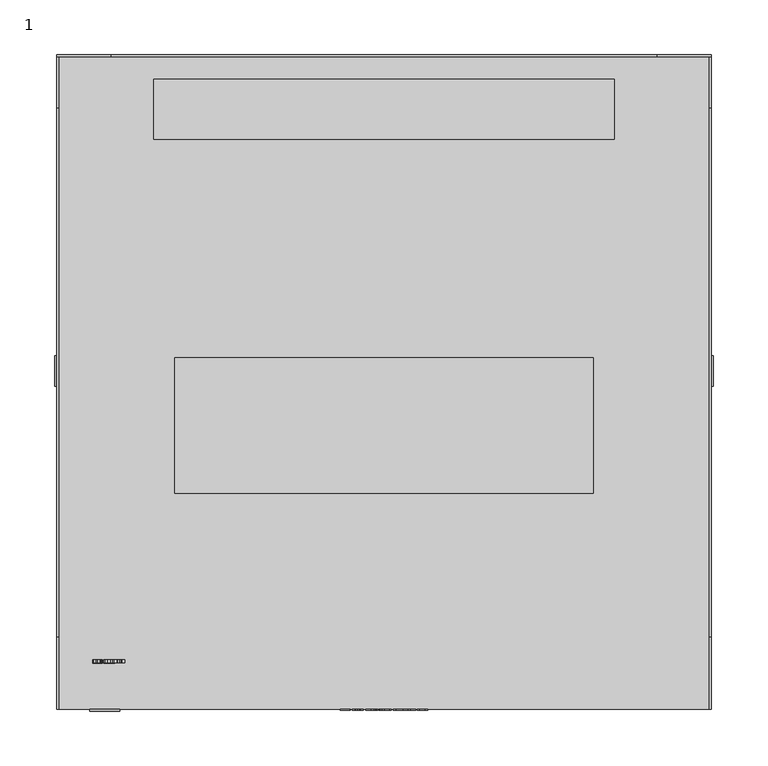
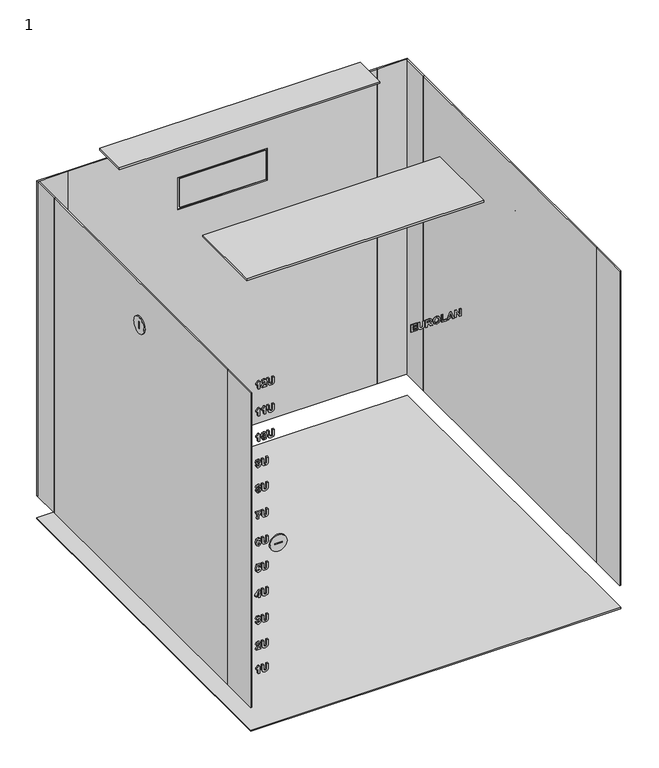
"""IFC4 building model written with IfcOpenShell, lengths in millimetres: proxy geometry, 1 : 12U 600мм металлическая дверь."""

from ifc_helpers import new_model, si_unit, point, frame, frame_2d, origin, origin_with_axes, place, context, project, spatial, polyline, circle_curve, trimmed, segment, composite_curve, outline, extrude, source, transform, mapped, element, save


def proxy_1_24a5b86d(model_context):
    return source(origin(), model_context, "Body", "SweptSolid", [
        extrude(outline(polyline([(593.0, -40.3245382), (593.0, -30.9964522), (595.1376864, -30.9964522), (595.1376864, -37.9925167), (598.2470483, -37.9925167), (598.2470483, -31.5794576), (600.3847347, -31.5794576), (600.3847347, -37.9925167), (603.1054264, -37.9925167), (603.1054264, -31.1907874), (605.2431128, -31.1907874), (605.2431128, -40.3245382), (593.0, -40.3245382)])), frame((0.0, -301.0, 0.0), z_axis=(0.0, 1.0, 0.0), x_axis=(0.0, 0.0, 1.0)), (0.0, 0.0, 1.0), 1.0),
        extrude(outline(polyline([(605.2431128, -29.053101), (598.7207402, -29.053101), (595.6174512, -28.8071456), (594.2601418, -28.1026808), (593.2095176, -26.6482039), (592.8056649, -23.9487675), (593.1761162, -21.5575346), (594.173602, -20.0954664), (595.7085458, -19.3454543), (598.8209443, -19.1420097), (605.2431128, -19.1420097), (605.2431128, -21.4740312), (598.4960402, -21.4740312), (596.4236383, -21.5924541), (595.3714958, -22.2923642), (594.9433512, -24.0216432), (595.3973059, -25.7979877), (596.5982363, -26.6208755), (598.6387551, -26.7210795), (605.2431128, -26.7210795), (605.2431128, -29.053101)])), frame((0.0, -301.0, 0.0), z_axis=(0.0, 1.0, 0.0), x_axis=(0.0, 0.0, 1.0)), (0.0, 0.0, 1.0), 1.0),
        extrude(outline(polyline([(593.0, -16.8099882), (593.0, -14.4779667), (598.0527132, -13.9435451), (597.9251808, -12.6120459), (597.4560437, -11.8164865), (595.7966039, -10.4242575), (593.0, -8.6509495), (593.0, -5.9272213), (595.3745323, -7.424209), (597.3512849, -8.7238252), (598.3715443, -9.9475291), (599.5071902, -7.6625732), (601.7936644, -6.8988969), (603.7339791, -7.4272455), (604.9121358, -8.8361752), (605.2431128, -11.6601074), (605.2431128, -16.8099882), (593.0, -16.8099882)]), holes=[polyline([(600.1903996, -14.4779667), (603.1054264, -14.4779667), (603.1054264, -12.4495939), (603.0659521, -10.5548264), (602.6150339, -9.5770778), (601.6782779, -9.2309184), (600.817434, -9.4935744), (600.3315962, -10.2223312), (600.1903996, -12.5558709), (600.1903996, -14.4779667)])]), frame((0.0, -301.0, 0.0), z_axis=(0.0, 1.0, 0.0), x_axis=(0.0, 0.0, 1.0)), (0.0, 0.0, 1.0), 1.0),
        extrude(outline(polyline([(599.0456442, -4.9555457), (594.4681411, -3.3735363), (592.8056649, 0.8896905), (594.4757323, 5.1225524), (599.106374, 6.7045618), (603.7628257, 5.1104065), (605.4374479, 0.8593256), (604.9546466, -1.7338337), (603.8539203, -3.2869964), (602.1792981, -4.4059416), (599.0456442, -4.9555457)]), holes=[polyline([(599.1306659, -2.6235242), (602.2612832, -1.6579215), (603.2997616, 0.886654), (602.2734292, 3.4190836), (599.1640672, 4.3725403), (595.9985302, 3.3932735), (594.9433512, 0.886654), (596.0061214, -1.6321114), (599.1306659, -2.6235242)])]), frame((0.0, -301.0, 0.0), z_axis=(0.0, 1.0, 0.0), x_axis=(0.0, 0.0, 1.0)), (0.0, 0.0, 1.0), 1.0),
        extrude(outline(polyline([(593.0, 8.647913), (593.0, 17.1986585), (595.1376864, 17.1986585), (595.1376864, 10.9799345), (605.2431128, 10.9799345), (605.2431128, 8.647913), (593.0, 8.647913)])), frame((0.0, -301.0, 0.0), z_axis=(0.0, 1.0, 0.0), x_axis=(0.0, 0.0, 1.0)), (0.0, 0.0, 1.0), 1.0),
        extrude(outline(polyline([(593.0, 29.2474361), (605.2431128, 24.7352175), (605.2431128, 22.2513717), (593.0, 17.7816638), (593.0, 20.2655096), (595.7206917, 21.2128934), (595.7206917, 25.837462), (593.0, 26.7969917), (593.0, 29.2474361)]), holes=[polyline([(597.8583781, 25.0904864), (597.8583781, 21.959869), (602.3280859, 23.51455), (597.8583781, 25.0904864)])]), frame((0.0, -301.0, 0.0), z_axis=(0.0, 1.0, 0.0), x_axis=(0.0, 0.0, 1.0)), (0.0, 0.0, 1.0), 1.0),
        extrude(outline(polyline([(593.0, 30.4134469), (593.0, 32.7454684), (601.1195644, 32.7454684), (593.0, 37.8042546), (593.0, 40.3245382), (605.2431128, 40.3245382), (605.2431128, 37.9925167), (597.002089, 37.9925167), (605.2431128, 32.8578184), (605.2431128, 30.4134469), (593.0, 30.4134469)])), frame((0.0, -301.0, 0.0), z_axis=(0.0, 1.0, 0.0), x_axis=(0.0, 0.0, 1.0)), (0.0, 0.0, 1.0), 1.0),
        extrude(outline(composite_curve([segment(trimmed(circle_curve(frame_2d((9.997621, 508.4611412)), 14.0), [point((-4.002379, 508.4611412))], [point((23.997621, 508.4611412))], False, "CARTESIAN"), True, "CONTINUOUS"), segment(trimmed(circle_curve(frame_2d((9.997621, 508.4611412)), 14.0), [point((23.997621, 508.4611412))], [point((-4.002379, 508.4611412))], False, "CARTESIAN"), True, "CONTINUOUS")], self_intersect=False), holes=[polyline([(11.0, 514.5), (9.0, 514.5), (9.0, 502.5), (11.0, 502.5), (11.0, 514.5)])]), frame((-302.0, 0.0, 0.0), z_axis=(1.0, 0.0, 0.0), x_axis=(0.0, 1.0, 0.0)), (0.0, 0.0, 1.0), 2.0),
        extrude(outline(composite_curve([segment(trimmed(circle_curve(frame_2d((9.997621, 508.4611412)), 14.0), [point((-4.002379, 508.4611412))], [point((23.997621, 508.4611412))], False, "CARTESIAN"), True, "CONTINUOUS"), segment(trimmed(circle_curve(frame_2d((9.997621, 508.4611412)), 14.0), [point((23.997621, 508.4611412))], [point((-4.002379, 508.4611412))], False, "CARTESIAN"), True, "CONTINUOUS")], self_intersect=False), holes=[polyline([(11.0, 514.5), (9.0, 514.5), (9.0, 502.5), (11.0, 502.5), (11.0, 514.5)])]), frame((300.0, 0.0, 0.0), z_axis=(1.0, 0.0, 0.0), x_axis=(0.0, 1.0, 0.0)), (0.0, 0.0, 1.0), 2.0),
        extrude(outline(composite_curve([segment(trimmed(circle_curve(frame_2d((308.5, -256.0)), 13.7647373), [point((308.5, -242.2352627))], [point((308.5, -269.7647373))], False, "CARTESIAN"), True, "CONTINUOUS"), segment(trimmed(circle_curve(frame_2d((308.5, -256.0)), 13.7647373), [point((308.5, -269.7647373))], [point((308.5, -242.2352627))], False, "CARTESIAN"), True, "CONTINUOUS")], self_intersect=False), holes=[polyline([(309.5, -250.0), (307.5, -250.0), (307.5, -262.0), (309.5, -262.0), (309.5, -250.0)])]), frame((0.0, -302.0, 0.0), z_axis=(0.0, 1.0, 0.0), x_axis=(0.0, 0.0, 1.0)), (0.0, 0.0, 1.0), 2.0),
        extrude(outline(polyline([(300.0, 300.0), (300.0, -300.0), (-300.0, -300.0), (-300.0, 300.0), (300.0, 300.0)])), origin_with_axes(), (0.0, 0.0, 1.0), 2.0),
        extrude(outline(polyline([(211.0, 277.5), (211.0, 222.5), (-211.0, 222.5), (-211.0, 277.5), (211.0, 277.5)])), frame((0.0, 0.0, 613.9795778), z_axis=(0.0, 0.0, 1.0), x_axis=(1.0, 0.0, 0.0)), (0.0, 0.0, 1.0), 3.0204222),
        extrude(outline(polyline([(192.0, 22.0), (192.0, -102.0), (-192.0, -102.0), (-192.0, 22.0), (192.0, 22.0)])), frame((0.0, 0.0, 613.9795778), z_axis=(0.0, 0.0, 1.0), x_axis=(1.0, 0.0, 0.0)), (0.0, 0.0, 1.0), 3.0204222),
        extrude(outline(polyline([(-69.5, 300.0), (69.5, 300.0), (69.5, 298.0), (-69.5, 298.0), (-69.5, 300.0)])), frame((0.0, 0.0, 454.0), z_axis=(0.0, 0.0, 1.0), x_axis=(1.0, 0.0, 0.0)), (0.0, 0.0, 1.0), 49.0),
        extrude(outline(polyline([(579.0, -250.0), (40.0, -250.0), (40.0, 250.0), (579.0, 250.0), (579.0, -250.0)]), holes=[polyline([(506.0, -72.5), (506.0, 72.5), (451.0, 72.5), (451.0, -72.5), (506.0, -72.5)])]), frame((0.0, 298.0, 0.0), z_axis=(0.0, 1.0, 0.0), x_axis=(0.0, 0.0, 1.0)), (0.0, 0.0, 1.0), 2.0),
        extrude(outline(polyline([(-300.0, 300.0), (-250.0, 300.0), (-250.0, 298.0), (-300.0, 298.0), (-300.0, 300.0)])), frame((0.0, 0.0, 40.0), z_axis=(0.0, 0.0, 1.0), x_axis=(1.0, 0.0, 0.0)), (0.0, 0.0, 1.0), 539.0),
        extrude(outline(polyline([(250.0, 300.0), (300.0, 300.0), (300.0, 298.0), (250.0, 298.0), (250.0, 300.0)])), frame((0.0, 0.0, 40.0), z_axis=(0.0, 0.0, 1.0), x_axis=(1.0, 0.0, 0.0)), (0.0, 0.0, 1.0), 539.0),
        extrude(outline(polyline([(-298.0, 250.8155315), (-298.0, -233.7095641), (-300.0, -233.7095641), (-300.0, 250.8155315), (-298.0, 250.8155315)])), frame((0.0, 0.0, 40.0), z_axis=(0.0, 0.0, 1.0), x_axis=(1.0, 0.0, 0.0)), (0.0, 0.0, 1.0), 539.0),
        extrude(outline(polyline([(-298.0, -233.7095641), (-298.0, -300.0), (-300.0, -300.0), (-300.0, -233.7095641), (-298.0, -233.7095641)])), frame((0.0, 0.0, 40.0), z_axis=(0.0, 0.0, 1.0), x_axis=(1.0, 0.0, 0.0)), (0.0, 0.0, 1.0), 539.0),
        extrude(outline(polyline([(-298.0, 300.0), (-298.0, 250.8155315), (-300.0, 250.8155315), (-300.0, 300.0), (-298.0, 300.0)])), frame((0.0, 0.0, 40.0), z_axis=(0.0, 0.0, 1.0), x_axis=(1.0, 0.0, 0.0)), (0.0, 0.0, 1.0), 539.0),
        extrude(outline(polyline([(300.0, 250.8155315), (300.0, -233.7095641), (298.0, -233.7095641), (298.0, 250.8155315), (300.0, 250.8155315)])), frame((0.0, 0.0, 40.0), z_axis=(0.0, 0.0, 1.0), x_axis=(1.0, 0.0, 0.0)), (0.0, 0.0, 1.0), 539.0),
        extrude(outline(polyline([(300.0, 300.0), (300.0, 250.8155315), (298.0, 250.8155315), (298.0, 300.0), (300.0, 300.0)])), frame((0.0, 0.0, 40.0), z_axis=(0.0, 0.0, 1.0), x_axis=(1.0, 0.0, 0.0)), (0.0, 0.0, 1.0), 539.0),
        extrude(outline(polyline([(300.0, -233.7095641), (300.0, -300.0), (298.0, -300.0), (298.0, -233.7095641), (300.0, -233.7095641)])), frame((0.0, 0.0, 40.0), z_axis=(0.0, 0.0, 1.0), x_axis=(1.0, 0.0, 0.0)), (0.0, 0.0, 1.0), 539.0),
        extrude(outline(polyline([(547.6333267, -260.6030776), (559.8764395, -260.6030776), (559.8764395, -262.4614073), (557.9103146, -263.9037383), (556.7670775, -265.850126), (554.435056, -265.850126), (556.3844802, -262.9350991), (547.6333267, -262.9350991), (547.6333267, -260.6030776)])), frame((0.0, -257.6777479, 0.0), z_axis=(0.0, 1.0, 0.0), x_axis=(0.0, 0.0, 1.0)), (0.0, 0.0, 1.0), 3.0),
        extrude(outline(polyline([(549.9653481, -249.3316405), (550.6030103, -253.2395983), (551.9299548, -251.9080991), (553.4603439, -250.4581769), (554.9937695, -249.6018877), (556.5363045, -249.3316405), (558.918428, -250.3184985), (559.8764395, -253.0331173), (559.0216686, -255.6596779), (556.202291, -256.9107103), (555.989737, -254.5786888), (557.3333822, -254.1292888), (557.7387531, -253.0847375), (557.3273092, -252.0417045), (556.1476343, -251.6636619), (554.7447776, -252.1130619), (552.7892804, -253.9167348), (549.9213191, -256.3611063), (547.6333267, -257.1050454), (547.6333267, -249.3316405), (549.9653481, -249.3316405)])), frame((0.0, -257.6777479, 0.0), z_axis=(0.0, 1.0, 0.0), x_axis=(0.0, 0.0, 1.0)), (0.0, 0.0, 1.0), 3.0),
        extrude(outline(polyline([(559.8764395, -247.3882892), (553.3540669, -247.3882892), (550.2507779, -247.1423338), (548.8934685, -246.437869), (547.8428442, -244.9833921), (547.4389915, -242.2839557), (547.8094429, -239.8927228), (548.8069286, -238.4306546), (550.3418725, -237.6806425), (553.4542709, -237.4771979), (559.8764395, -237.4771979), (559.8764395, -239.8092194), (553.1293669, -239.8092194), (551.056965, -239.9276424), (550.0048225, -240.6275524), (549.5766779, -242.3568314), (550.0306326, -244.1331759), (551.2315629, -244.9560637), (553.2720817, -245.0562677), (559.8764395, -245.0562677), (559.8764395, -247.3882892)])), frame((0.0, -257.6777479, 0.0), z_axis=(0.0, 1.0, 0.0), x_axis=(0.0, 0.0, 1.0)), (0.0, 0.0, 1.0), 3.0),
        extrude(outline(polyline([(501.1786301, -260.6030776), (513.4217429, -260.6030776), (513.4217429, -262.4614073), (511.455618, -263.9037383), (510.3123809, -265.850126), (507.9803594, -265.850126), (509.9297836, -262.9350991), (501.1786301, -262.9350991), (501.1786301, -260.6030776)])), frame((0.0, -257.6777479, 0.0), z_axis=(0.0, 1.0, 0.0), x_axis=(0.0, 0.0, 1.0)), (0.0, 0.0, 1.0), 3.0),
        extrude(outline(polyline([(501.1786301, -251.2749917), (513.4217429, -251.2749917), (513.4217429, -253.1333213), (511.455618, -254.5756523), (510.3123809, -256.52204), (507.9803594, -256.52204), (509.9297836, -253.6070132), (501.1786301, -253.6070132), (501.1786301, -251.2749917)])), frame((0.0, -257.6777479, 0.0), z_axis=(0.0, 1.0, 0.0), x_axis=(0.0, 0.0, 1.0)), (0.0, 0.0, 1.0), 3.0),
        extrude(outline(polyline([(513.4217429, -247.3882892), (506.8993703, -247.3882892), (503.7960813, -247.1423338), (502.4387719, -246.437869), (501.3881476, -244.9833921), (500.9842949, -242.2839557), (501.3547463, -239.8927228), (502.352232, -238.4306546), (503.8871758, -237.6806425), (506.9995743, -237.4771979), (513.4217429, -237.4771979), (513.4217429, -239.8092194), (506.6746703, -239.8092194), (504.6022684, -239.9276424), (503.5501259, -240.6275524), (503.1219813, -242.3568314), (503.575936, -244.1331759), (504.7768663, -244.9560637), (506.8173851, -245.0562677), (513.4217429, -245.0562677), (513.4217429, -247.3882892)])), frame((0.0, -257.6777479, 0.0), z_axis=(0.0, 1.0, 0.0), x_axis=(0.0, 0.0, 1.0)), (0.0, 0.0, 1.0), 3.0),
        extrude(outline(polyline([(457.3261317, -260.6030776), (469.5692445, -260.6030776), (469.5692445, -262.4614073), (467.6031196, -263.9037383), (466.4598825, -265.850126), (464.127861, -265.850126), (466.0772852, -262.9350991), (457.3261317, -262.9350991), (457.3261317, -260.6030776)])), frame((0.0, -257.6777479, 0.0), z_axis=(0.0, 1.0, 0.0), x_axis=(0.0, 0.0, 1.0)), (0.0, 0.0, 1.0), 3.0),
        extrude(outline(polyline([(469.5692445, -253.2183429), (468.3242851, -255.9299252), (463.3717759, -257.1050454), (458.4982154, -256.034684), (457.1317966, -253.2183429), (458.3767559, -250.5067607), (463.347484, -249.3316405), (468.3060662, -250.5006877), (469.5692445, -253.2183429)]), holes=[polyline([(467.4315581, -253.2183429), (467.174975, -252.4455572), (466.1531974, -251.8853254), (463.347484, -251.6636619), (460.4476396, -251.9126538), (459.526066, -252.4410024), (459.2694829, -253.2183429), (459.5230295, -253.9911287), (460.5402524, -254.5513604), (463.347484, -254.7730239), (466.2534014, -254.524032), (467.174975, -253.9956834), (467.4315581, -253.2183429)])]), frame((0.0, -257.6777479, 0.0), z_axis=(0.0, 1.0, 0.0), x_axis=(0.0, 0.0, 1.0)), (0.0, 0.0, 1.0), 3.0),
        extrude(outline(polyline([(469.5692445, -247.3882892), (463.0468719, -247.3882892), (459.9435829, -247.1423338), (458.5862735, -246.437869), (457.5356492, -244.9833921), (457.1317966, -242.2839557), (457.5022479, -239.8927228), (458.4997336, -238.4306546), (460.0346775, -237.6806425), (463.1470759, -237.4771979), (469.5692445, -237.4771979), (469.5692445, -239.8092194), (462.8221719, -239.8092194), (460.74977, -239.9276424), (459.6976275, -240.6275524), (459.2694829, -242.3568314), (459.7234376, -244.1331759), (460.924368, -244.9560637), (462.9648868, -245.0562677), (469.5692445, -245.0562677), (469.5692445, -247.3882892)])), frame((0.0, -257.6777479, 0.0), z_axis=(0.0, 1.0, 0.0), x_axis=(0.0, 0.0, 1.0)), (0.0, 0.0, 1.0), 3.0),
        extrude(outline(polyline([(416.2414631, -266.2387962), (413.8062011, -265.1547706), (412.9924228, -262.9381356), (414.4696734, -259.8469925), (419.2870589, -258.6597264), (423.9981674, -259.7953723), (425.4298707, -262.7012897), (424.3169985, -265.3809888), (421.3852709, -266.4331314), (418.550711, -265.4083172), (417.4621306, -262.971537), (418.476317, -260.8065222), (415.7753625, -261.4290019), (415.1301091, -262.6071586), (415.4641226, -263.4922944), (416.490455, -263.9067747), (416.2414631, -266.2387962)]), holes=[polyline([(421.3306142, -260.9917479), (420.0385892, -261.4365931), (419.599817, -262.5312464), (420.0568082, -263.6517099), (421.4885115, -264.1011099), (422.8701127, -263.6881477), (423.2921843, -262.6496694), (422.7774999, -261.4927681), (421.3306142, -260.9917479)])]), frame((0.0, -257.6777479, 0.0), z_axis=(0.0, 1.0, 0.0), x_axis=(0.0, 0.0, 1.0)), (0.0, 0.0, 1.0), 3.0),
        extrude(outline(polyline([(425.4298707, -256.7163752), (418.9074981, -256.7163752), (415.8042091, -256.4704198), (414.4468997, -255.7659549), (413.3962754, -254.311478), (412.9924228, -251.6120417), (413.3628741, -249.2208087), (414.3603599, -247.7587405), (415.8953037, -247.0087284), (419.0077021, -246.8052838), (425.4298707, -246.8052838), (425.4298707, -249.1373053), (418.6827981, -249.1373053), (416.6103962, -249.2557283), (415.5582537, -249.9556384), (415.1301091, -251.6849173), (415.5840638, -253.4612618), (416.7849942, -254.2841496), (418.825513, -254.3843537), (425.4298707, -254.3843537), (425.4298707, -256.7163752)])), frame((0.0, -257.6777479, 0.0), z_axis=(0.0, 1.0, 0.0), x_axis=(0.0, 0.0, 1.0)), (0.0, 0.0, 1.0), 3.0),
        extrude(outline(polyline([(376.4962498, -264.3865396), (375.2254803, -265.9397023), (373.4172527, -266.4331314), (370.6024299, -265.1669166), (369.7339948, -262.4826627), (370.784619, -259.7042777), (373.5174567, -258.6597264), (375.3120201, -259.1865568), (376.4962498, -260.7245371), (377.508918, -259.3444541), (379.0226064, -258.8540615), (381.280234, -259.8227007), (382.1714427, -262.5464289), (381.280234, -265.2777483), (379.0226064, -266.2387962), (377.5499105, -265.7985057), (376.4962498, -264.3865396)]), holes=[polyline([(378.8798915, -263.9067747), (380.000355, -263.5332869), (380.4224266, -262.5312464), (380.0033915, -261.5550161), (378.889001, -261.186083), (377.7320997, -261.5595708), (377.3130646, -262.5555383), (377.727545, -263.5378417), (378.8798915, -263.9067747)]), polyline([(373.6146243, -264.1011099), (374.94916, -263.7169943), (375.5640485, -262.5494654), (375.0220357, -261.4320384), (373.5872959, -260.9917479), (372.0250237, -261.4244472), (371.4830109, -262.5191005), (372.0462791, -263.6486734), (373.6146243, -264.1011099)])]), frame((0.0, -257.6777479, 0.0), z_axis=(0.0, 1.0, 0.0), x_axis=(0.0, 0.0, 1.0)), (0.0, 0.0, 1.0), 3.0),
        extrude(outline(polyline([(382.1714427, -256.7163752), (375.6490701, -256.7163752), (372.5457811, -256.4704198), (371.1884717, -255.7659549), (370.1378475, -254.311478), (369.7339948, -251.6120417), (370.1044461, -249.2208087), (371.1019319, -247.7587405), (372.6368757, -247.0087284), (375.7492742, -246.8052838), (382.1714427, -246.8052838), (382.1714427, -249.1373053), (375.4243701, -249.1373053), (373.3519682, -249.2557283), (372.2998257, -249.9556384), (371.8716811, -251.6849173), (372.3256358, -253.4612618), (373.5265662, -254.2841496), (375.567085, -254.3843537), (382.1714427, -254.3843537), (382.1714427, -256.7163752)])), frame((0.0, -257.6777479, 0.0), z_axis=(0.0, 1.0, 0.0), x_axis=(0.0, 0.0, 1.0)), (0.0, 0.0, 1.0), 3.0),
        extrude(outline(polyline([(334.6450861, -266.4331314), (334.6450861, -261.3257614), (330.0129262, -264.008497), (324.9283299, -265.0727855), (324.9283299, -262.740764), (328.5812229, -262.2154519), (332.440597, -260.6622891), (335.2280915, -258.6597264), (336.9771076, -258.6597264), (336.9771076, -266.4331314), (334.6450861, -266.4331314)])), frame((0.0, -257.6777479, 0.0), z_axis=(0.0, 1.0, 0.0), x_axis=(0.0, 0.0, 1.0)), (0.0, 0.0, 1.0), 3.0),
        extrude(outline(polyline([(337.1714427, -256.7163752), (330.6490701, -256.7163752), (327.5457811, -256.4704198), (326.1884717, -255.7659549), (325.1378475, -254.311478), (324.7339948, -251.6120417), (325.1044461, -249.2208087), (326.1019319, -247.7587405), (327.6368757, -247.0087284), (330.7492742, -246.8052838), (337.1714427, -246.8052838), (337.1714427, -249.1373053), (330.4243701, -249.1373053), (328.3519682, -249.2557283), (327.2998257, -249.9556384), (326.8716811, -251.6849173), (327.3256358, -253.4612618), (328.5265662, -254.2841496), (330.567085, -254.3843537), (337.1714427, -254.3843537), (337.1714427, -256.7163752)])), frame((0.0, -257.6777479, 0.0), z_axis=(0.0, 1.0, 0.0), x_axis=(0.0, 0.0, 1.0)), (0.0, 0.0, 1.0), 3.0),
        extrude(outline(polyline([(287.6111434, -258.8540615), (290.0281866, -259.9654155), (290.8601838, -262.1668681), (289.381415, -265.2473834), (284.5534017, -266.4331314), (279.8559574, -265.2974855), (278.4227359, -262.4006775), (279.5325716, -259.7073142), (282.4764451, -258.6597264), (285.2973409, -259.6845405), (286.390476, -262.1486492), (285.3671801, -264.2802626), (288.0772441, -263.6638558), (288.7224974, -262.4674802), (288.3900022, -261.5990451), (287.3621516, -261.186083), (287.6111434, -258.8540615)]), holes=[polyline([(282.5280654, -264.1011099), (283.8155356, -263.6532281), (284.2527896, -262.5585748), (283.7957984, -261.4396296), (282.3549856, -260.9917479), (280.9794573, -261.4077465), (280.5604222, -262.4462248), (281.0720702, -263.5970531), (282.5280654, -264.1011099)])]), frame((0.0, -257.6777479, 0.0), z_axis=(0.0, 1.0, 0.0), x_axis=(0.0, 0.0, 1.0)), (0.0, 0.0, 1.0), 3.0),
        extrude(outline(polyline([(290.8601838, -256.7163752), (284.3378112, -256.7163752), (281.2345222, -256.4704198), (279.8772128, -255.7659549), (278.8265886, -254.311478), (278.4227359, -251.6120417), (278.7931872, -249.2208087), (279.790673, -247.7587405), (281.3256168, -247.0087284), (284.4380153, -246.8052838), (290.8601838, -246.8052838), (290.8601838, -249.1373053), (284.1131112, -249.1373053), (282.0407093, -249.2557283), (280.9885668, -249.9556384), (280.5604222, -251.6849173), (281.0143769, -253.4612618), (282.2153073, -254.2841496), (284.2558261, -254.3843537), (290.8601838, -254.3843537), (290.8601838, -256.7163752)])), frame((0.0, -257.6777479, 0.0), z_axis=(0.0, 1.0, 0.0), x_axis=(0.0, 0.0, 1.0)), (0.0, 0.0, 1.0), 3.0),
        extrude(outline(polyline([(237.3503584, -266.4331314), (234.6964693, -265.1957632), (233.7096113, -262.522137), (235.2825112, -259.312571), (237.9029989, -258.4653913), (240.7679237, -259.4826142), (241.8716865, -261.960387), (241.3949581, -263.4634477), (243.6207026, -262.9927924), (243.6207026, -259.0483966), (245.9527241, -259.0483966), (245.9527241, -264.8784504), (239.0629366, -266.2387962), (238.7623245, -264.2164963), (239.7340001, -262.509991), (239.2633447, -261.2726229), (237.8513786, -260.7974128), (236.3467996, -261.3090607), (235.8472976, -262.5585748), (236.317953, -263.7002937), (237.5963138, -264.295445), (237.3503584, -266.4331314)])), frame((0.0, -257.6777479, 0.0), z_axis=(0.0, 1.0, 0.0), x_axis=(0.0, 0.0, 1.0)), (0.0, 0.0, 1.0), 3.0),
        extrude(outline(polyline([(246.1470592, -256.7163752), (239.6246866, -256.7163752), (236.5213976, -256.4704198), (235.1640882, -255.7659549), (234.113464, -254.311478), (233.7096113, -251.6120417), (234.0800626, -249.2208087), (235.0775484, -247.7587405), (236.6124922, -247.0087284), (239.7248907, -246.8052838), (246.1470592, -246.8052838), (246.1470592, -249.1373053), (239.3999866, -249.1373053), (237.3275847, -249.2557283), (236.2754422, -249.9556384), (235.8472976, -251.6849173), (236.3012523, -253.4612618), (237.5021827, -254.2841496), (239.5427015, -254.3843537), (246.1470592, -254.3843537), (246.1470592, -256.7163752)])), frame((0.0, -257.6777479, 0.0), z_axis=(0.0, 1.0, 0.0), x_axis=(0.0, 0.0, 1.0)), (0.0, 0.0, 1.0), 3.0),
        extrude(outline(polyline([(189.9283299, -262.1577586), (189.9283299, -259.8257371), (192.4546865, -259.8257371), (192.4546865, -258.2710562), (194.3980377, -258.2710562), (194.3980377, -259.8257371), (201.9771076, -259.8257371), (201.9771076, -261.848037), (194.3889283, -266.8218016), (192.4546865, -266.8218016), (192.4546865, -262.1577586), (189.9283299, -262.1577586)]), holes=[polyline([(194.3980377, -262.1577586), (194.3980377, -264.7630639), (198.3758348, -262.1577586), (194.3980377, -262.1577586)])]), frame((0.0, -257.6777479, 0.0), z_axis=(0.0, 1.0, 0.0), x_axis=(0.0, 0.0, 1.0)), (0.0, 0.0, 1.0), 3.0),
        extrude(outline(polyline([(202.1714427, -256.7163752), (195.6490701, -256.7163752), (192.5457811, -256.4704198), (191.1884717, -255.7659549), (190.1378475, -254.311478), (189.7339948, -251.6120417), (190.1044461, -249.2208087), (191.1019319, -247.7587405), (192.6368757, -247.0087284), (195.7492742, -246.8052838), (202.1714427, -246.8052838), (202.1714427, -249.1373053), (195.4243701, -249.1373053), (193.3519682, -249.2557283), (192.2998257, -249.9556384), (191.8716811, -251.6849173), (192.3256358, -253.4612618), (193.5265662, -254.2841496), (195.567085, -254.3843537), (202.1714427, -254.3843537), (202.1714427, -256.7163752)])), frame((0.0, -257.6777479, 0.0), z_axis=(0.0, 1.0, 0.0), x_axis=(0.0, 0.0, 1.0)), (0.0, 0.0, 1.0), 3.0),
        extrude(outline(polyline([(148.35045, -266.4331314), (145.734517, -265.2200551), (144.7339948, -262.5859032), (145.859013, -259.7847446), (148.5781864, -258.6597264), (150.4562532, -259.294352), (151.4567755, -260.9887114), (154.0286794, -259.2427318), (156.0691982, -260.0565101), (157.1714427, -262.6739613), (156.773663, -264.3971673), (155.6820462, -265.5965794), (153.8282713, -266.2387962), (153.4790753, -263.9067747), (154.6374949, -263.4892579), (155.0337563, -262.6587789), (154.6921516, -261.8708107), (153.776651, -261.5747533), (152.6956619, -261.9710147), (152.3130646, -263.1203248), (150.3909688, -263.3237694), (150.5640485, -262.397641), (150.0812472, -261.4001553), (148.7725216, -260.9917479), (147.3863656, -261.4381114), (146.8716811, -262.5403559), (147.3210811, -263.5757977), (148.6206973, -264.1011099), (148.35045, -266.4331314)])), frame((0.0, -257.6777479, 0.0), z_axis=(0.0, 1.0, 0.0), x_axis=(0.0, 0.0, 1.0)), (0.0, 0.0, 1.0), 3.0),
        extrude(outline(polyline([(157.1714427, -256.7163752), (150.6490701, -256.7163752), (147.5457811, -256.4704198), (146.1884717, -255.7659549), (145.1378475, -254.311478), (144.7339948, -251.6120417), (145.1044461, -249.2208087), (146.1019319, -247.7587405), (147.6368757, -247.0087284), (150.7492742, -246.8052838), (157.1714427, -246.8052838), (157.1714427, -249.1373053), (150.4243701, -249.1373053), (148.3519682, -249.2557283), (147.2998257, -249.9556384), (146.8716811, -251.6849173), (147.3256358, -253.4612618), (148.5265662, -254.2841496), (150.567085, -254.3843537), (157.1714427, -254.3843537), (157.1714427, -256.7163752)])), frame((0.0, -257.6777479, 0.0), z_axis=(0.0, 1.0, 0.0), x_axis=(0.0, 0.0, 1.0)), (0.0, 0.0, 1.0), 3.0),
        extrude(outline(polyline([(103.3014708, -258.8246798), (103.9391329, -262.7326376), (105.2660774, -261.4011384), (106.7964665, -259.9512162), (108.3298921, -259.094927), (109.8724272, -258.8246798), (112.2545507, -259.8115378), (113.2125621, -262.5261566), (112.3577912, -265.1527172), (109.5384137, -266.4037496), (109.3258596, -264.0717281), (110.6695048, -263.6223281), (111.0748758, -262.5777768), (110.6634319, -261.5347438), (109.4837569, -261.1567012), (108.0809003, -261.6061012), (106.1254031, -263.4097741), (103.2574418, -265.8541456), (100.9694493, -266.5980847), (100.9694493, -258.8246798), (103.3014708, -258.8246798)])), frame((0.0, -257.6777479, 0.0), z_axis=(0.0, 1.0, 0.0), x_axis=(0.0, 0.0, 1.0)), (0.0, 0.0, 1.0), 3.0),
        extrude(outline(polyline([(113.2125621, -256.8813285), (106.6901895, -256.8813285), (103.5869005, -256.6353731), (102.2295911, -255.9309083), (101.1789669, -254.4764314), (100.7751142, -251.776995), (101.1455655, -249.3857621), (102.1430513, -247.9236939), (103.6779951, -247.1736818), (106.7903936, -246.9702372), (113.2125621, -246.9702372), (113.2125621, -249.3022587), (106.4654895, -249.3022587), (104.3930876, -249.4206817), (103.3409451, -250.1205917), (102.9128006, -251.8498707), (103.3667553, -253.6262152), (104.5676856, -254.449103), (106.6082044, -254.549307), (113.2125621, -254.549307), (113.2125621, -256.8813285)])), frame((0.0, -257.6777479, 0.0), z_axis=(0.0, 1.0, 0.0), x_axis=(0.0, 0.0, 1.0)), (0.0, 0.0, 1.0), 3.0),
        extrude(outline(polyline([(59.9283299, -260.6030776), (72.1714427, -260.6030776), (72.1714427, -262.4614073), (70.2053178, -263.9037383), (69.0620807, -265.850126), (66.7300592, -265.850126), (68.6794834, -262.9350991), (59.9283299, -262.9350991), (59.9283299, -260.6030776)])), frame((0.0, -257.6777479, 0.0), z_axis=(0.0, 1.0, 0.0), x_axis=(0.0, 0.0, 1.0)), (0.0, 0.0, 1.0), 3.0),
        extrude(outline(polyline([(72.1714427, -256.7163752), (65.6490701, -256.7163752), (62.5457811, -256.4704198), (61.1884717, -255.7659549), (60.1378475, -254.311478), (59.7339948, -251.6120417), (60.1044461, -249.2208087), (61.1019319, -247.7587405), (62.6368757, -247.0087284), (65.7492742, -246.8052838), (72.1714427, -246.8052838), (72.1714427, -249.1373053), (65.4243701, -249.1373053), (63.3519682, -249.2557283), (62.2998257, -249.9556384), (61.8716811, -251.6849173), (62.3256358, -253.4612618), (63.5265662, -254.2841496), (65.567085, -254.3843537), (72.1714427, -254.3843537), (72.1714427, -256.7163752)])), frame((0.0, -257.6777479, 0.0), z_axis=(0.0, 1.0, 0.0), x_axis=(0.0, 0.0, 1.0)), (0.0, 0.0, 1.0), 3.0),
    ])


if __name__ == "__main__":
    model = new_model("IFC4")
    model_context = context("Model", 3, world=origin())
    ifc_project = project(units=[si_unit("LENGTHUNIT", "METRE", prefix="MILLI")], contexts=[model_context])
    site = spatial("IfcSite", under=ifc_project)
    building = spatial("IfcBuilding", under=site)
    placement = place(None, origin())
    proxy_1_shape = proxy_1_24a5b86d(model_context)
    element("IfcBuildingElementProxy", 1, Name="1 : 12U 600мм металлическая дверь", ObjectType="1 : 12U 600мм металлическая дверь", at=placement, inside=building, context=model_context, shape_type="MappedRepresentation", body=[
        mapped(proxy_1_shape, transform((0.0, 0.0, 0.0), x_axis=(1.0, 0.0, 0.0), y_axis=(0.0, 1.0, 0.0), z_axis=(0.0, 0.0, 1.0))),
    ])
    save(model, "model.ifc")
